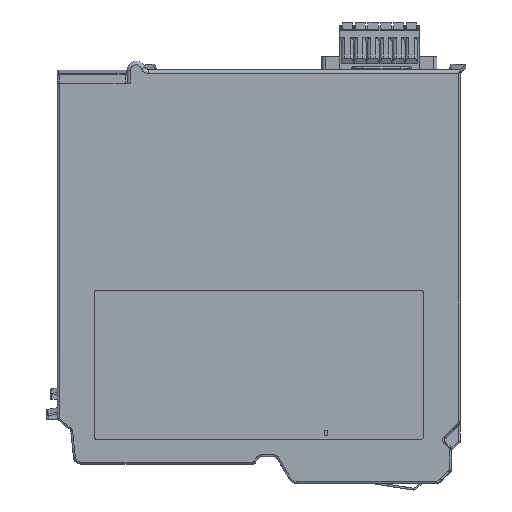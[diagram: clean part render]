
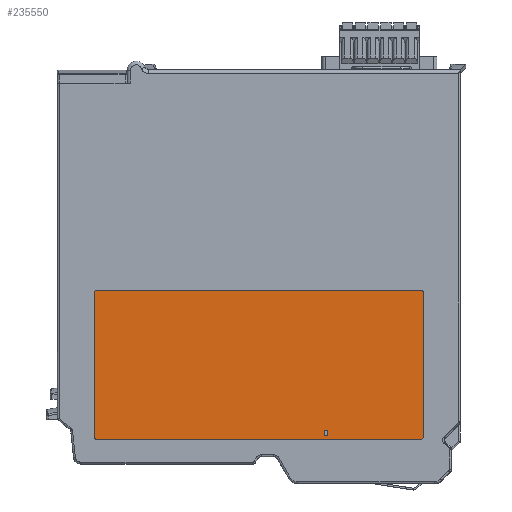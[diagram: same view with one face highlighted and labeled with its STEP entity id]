
A CAD part, left-side view. The second image highlights one B-rep face of the part: STEP entity #235550.
In plain terms, the highlighted planar face has unit normal (-1, 0, 0).
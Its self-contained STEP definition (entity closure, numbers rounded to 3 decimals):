
#5093 = LINE ( 'NONE', #5094, #82103 ) ;
#5094 = CARTESIAN_POINT ( 'NONE',  ( -30.376, -7.7, 8.2 ) ) ;
#5095 = DIRECTION ( 'NONE',  ( 0., 0., 1. ) ) ;
#12694 = CARTESIAN_POINT ( 'NONE',  ( -30.376, -71.372, 8.2 ) ) ;
#12987 = CARTESIAN_POINT ( 'NONE',  ( -30.376, -70.515, 9.7 ) ) ;
#13199 = CARTESIAN_POINT ( 'NONE',  ( -30.376, -70.528, 8.2 ) ) ;
#13452 = CARTESIAN_POINT ( 'NONE',  ( -30.376, -71.385, 9.7 ) ) ;
#16792 = CARTESIAN_POINT ( 'NONE',  ( -30.376, -96.7, 47. ) ) ;
#16793 = DIRECTION ( 'NONE',  ( 1., 0., 0. ) ) ;
#16794 = DIRECTION ( 'NONE',  ( 0., 0., 1. ) ) ;
#28289 = VERTEX_POINT ( 'NONE', #12694 ) ;
#28819 = VERTEX_POINT ( 'NONE', #12987 ) ;
#29157 = VERTEX_POINT ( 'NONE', #13199 ) ;
#29417 = VERTEX_POINT ( 'NONE', #13452 ) ;
#32981 = VECTOR ( 'NONE', #202067, 1000. ) ;
#39002 = CARTESIAN_POINT ( 'NONE',  ( -30.376, -97.7, 8.2 ) ) ;
#39409 = CARTESIAN_POINT ( 'NONE',  ( -30.376, -8.7, 7.2 ) ) ;
#39557 = CARTESIAN_POINT ( 'NONE',  ( -30.376, -7.7, 8.2 ) ) ;
#39622 = CARTESIAN_POINT ( 'NONE',  ( -30.376, -97.7, 47. ) ) ;
#39631 = CARTESIAN_POINT ( 'NONE',  ( -30.376, -8.7, 48. ) ) ;
#40920 = EDGE_CURVE ( 'NONE', #170084, #226664, #67444, .T. ) ;
#41181 = EDGE_CURVE ( 'NONE', #226664, #225688, #202063, .T. ) ;
#41646 = VECTOR ( 'NONE', #223453, 1000. ) ;
#41697 = EDGE_CURVE ( 'NONE', #226607, #170231, #5093, .T. ) ;
#43346 = EDGE_CURVE ( 'NONE', #226480, #226607, #79956, .T. ) ;
#43478 = EDGE_CURVE ( 'NONE', #226675, #170084, #198649, .T. ) ;
#43696 = EDGE_CURVE ( 'NONE', #170231, #226675, #152367, .T. ) ;
#43799 = EDGE_CURVE ( 'NONE', #170157, #226480, #94691, .T. ) ;
#45460 = FACE_BOUND ( 'NONE', #86105, .T. ) ;
#45466 = FACE_OUTER_BOUND ( 'NONE', #148051, .T. ) ;
#45472 = PLANE ( 'NONE',  #115780 ) ;
#45516 = CARTESIAN_POINT ( 'NONE',  ( -30.376, -8.7, 8.2 ) ) ;
#45519 = DIRECTION ( 'NONE',  ( -1., 0., 0. ) ) ;
#45521 = DIRECTION ( 'NONE',  ( 0., 0., 1. ) ) ;
#46845 = EDGE_CURVE ( 'NONE', #225688, #170157, #63108, .T. ) ;
#63108 = CIRCLE ( 'NONE', #63156, 1. ) ;
#63156 = AXIS2_PLACEMENT_3D ( 'NONE', #226929, #226931, #226932 ) ;
#65129 = CARTESIAN_POINT ( 'NONE',  ( -30.376, -96.7, 48. ) ) ;
#65163 = CARTESIAN_POINT ( 'NONE',  ( -30.376, -96.7, 7.2 ) ) ;
#65194 = CARTESIAN_POINT ( 'NONE',  ( -30.376, -7.7, 47. ) ) ;
#66491 = ORIENTED_EDGE ( 'NONE', *, *, #41697, .F. ) ;
#67444 = CIRCLE ( 'NONE', #67956, 1. ) ;
#67956 = AXIS2_PLACEMENT_3D ( 'NONE', #16792, #16793, #16794 ) ;
#72731 = CARTESIAN_POINT ( 'NONE',  ( -30.376, -70.6, 9.7 ) ) ;
#72761 = LINE ( 'NONE', #72731, #78718 ) ;
#72765 = DIRECTION ( 'NONE',  ( 0., 1., 0. ) ) ;
#78718 = VECTOR ( 'NONE', #72765, 1000. ) ;
#79422 = VECTOR ( 'NONE', #198651, 1000. ) ;
#79516 = AXIS2_PLACEMENT_3D ( 'NONE', #197420, #197422, #197424 ) ;
#79956 = CIRCLE ( 'NONE', #79516, 1. ) ;
#82103 = VECTOR ( 'NONE', #5095, 1000. ) ;
#86105 = EDGE_LOOP ( 'NONE', ( #186944, #183643, #183651, #183676 ) ) ;
#93209 = CARTESIAN_POINT ( 'NONE',  ( -30.376, -8.7, 47. ) ) ;
#93211 = DIRECTION ( 'NONE',  ( 1., 0., 0. ) ) ;
#93215 = DIRECTION ( 'NONE',  ( 0., 0., -1. ) ) ;
#94691 = LINE ( 'NONE', #94697, #217229 ) ;
#94697 = CARTESIAN_POINT ( 'NONE',  ( -30.376, -8.7, 7.2 ) ) ;
#94701 = DIRECTION ( 'NONE',  ( 0., 1., 0. ) ) ;
#115780 = AXIS2_PLACEMENT_3D ( 'NONE', #45516, #45519, #45521 ) ;
#117348 = LINE ( 'NONE', #117352, #123829 ) ;
#117352 = CARTESIAN_POINT ( 'NONE',  ( -30.376, -71.3, 0. ) ) ;
#117355 = DIRECTION ( 'NONE',  ( 0., 0.009, -1. ) ) ;
#117625 = LINE ( 'NONE', #117627, #123899 ) ;
#117627 = CARTESIAN_POINT ( 'NONE',  ( -30.376, -70.6, 8.2 ) ) ;
#117630 = DIRECTION ( 'NONE',  ( 0., -1., 0. ) ) ;
#123829 = VECTOR ( 'NONE', #117355, 1000. ) ;
#123899 = VECTOR ( 'NONE', #117630, 1000. ) ;
#148051 = EDGE_LOOP ( 'NONE', ( #183647, #186672, #186761, #186891, #186884, #186675, #187212, #66491 ) ) ;
#151320 = AXIS2_PLACEMENT_3D ( 'NONE', #93209, #93211, #93215 ) ;
#152367 = CIRCLE ( 'NONE', #151320, 1. ) ;
#156349 = EDGE_CURVE ( 'NONE', #29157, #28819, #223450, .T. ) ;
#159462 = EDGE_CURVE ( 'NONE', #29417, #28289, #117348, .T. ) ;
#159520 = EDGE_CURVE ( 'NONE', #29157, #28289, #117625, .T. ) ;
#161892 = EDGE_CURVE ( 'NONE', #29417, #28819, #72761, .T. ) ;
#170084 = VERTEX_POINT ( 'NONE', #65129 ) ;
#170157 = VERTEX_POINT ( 'NONE', #65163 ) ;
#170231 = VERTEX_POINT ( 'NONE', #65194 ) ;
#183643 = ORIENTED_EDGE ( 'NONE', *, *, #159520, .F. ) ;
#183647 = ORIENTED_EDGE ( 'NONE', *, *, #43346, .F. ) ;
#183651 = ORIENTED_EDGE ( 'NONE', *, *, #156349, .T. ) ;
#183676 = ORIENTED_EDGE ( 'NONE', *, *, #161892, .F. ) ;
#186672 = ORIENTED_EDGE ( 'NONE', *, *, #43799, .F. ) ;
#186675 = ORIENTED_EDGE ( 'NONE', *, *, #43478, .F. ) ;
#186761 = ORIENTED_EDGE ( 'NONE', *, *, #46845, .F. ) ;
#186884 = ORIENTED_EDGE ( 'NONE', *, *, #40920, .F. ) ;
#186891 = ORIENTED_EDGE ( 'NONE', *, *, #41181, .F. ) ;
#186944 = ORIENTED_EDGE ( 'NONE', *, *, #159462, .T. ) ;
#187212 = ORIENTED_EDGE ( 'NONE', *, *, #43696, .F. ) ;
#197420 = CARTESIAN_POINT ( 'NONE',  ( -30.376, -8.7, 8.2 ) ) ;
#197422 = DIRECTION ( 'NONE',  ( 1., 0., 0. ) ) ;
#197424 = DIRECTION ( 'NONE',  ( 0., 0., 1. ) ) ;
#198649 = LINE ( 'NONE', #198650, #79422 ) ;
#198650 = CARTESIAN_POINT ( 'NONE',  ( -30.376, -8.7, 48. ) ) ;
#198651 = DIRECTION ( 'NONE',  ( 0., -1., 0. ) ) ;
#202063 = LINE ( 'NONE', #202065, #32981 ) ;
#202065 = CARTESIAN_POINT ( 'NONE',  ( -30.376, -97.7, 8.2 ) ) ;
#202067 = DIRECTION ( 'NONE',  ( 0., 0., -1. ) ) ;
#217229 = VECTOR ( 'NONE', #94701, 1000. ) ;
#223450 = LINE ( 'NONE', #223451, #41646 ) ;
#223451 = CARTESIAN_POINT ( 'NONE',  ( -30.376, -70.6, 0. ) ) ;
#223453 = DIRECTION ( 'NONE',  ( 0., 0.009, 1. ) ) ;
#225688 = VERTEX_POINT ( 'NONE', #39002 ) ;
#226480 = VERTEX_POINT ( 'NONE', #39409 ) ;
#226607 = VERTEX_POINT ( 'NONE', #39557 ) ;
#226664 = VERTEX_POINT ( 'NONE', #39622 ) ;
#226675 = VERTEX_POINT ( 'NONE', #39631 ) ;
#226929 = CARTESIAN_POINT ( 'NONE',  ( -30.376, -96.7, 8.2 ) ) ;
#226931 = DIRECTION ( 'NONE',  ( 1., 0., 0. ) ) ;
#226932 = DIRECTION ( 'NONE',  ( 0., 0., 1. ) ) ;
#235550 = ADVANCED_FACE ( 'NONE', ( #45460, #45466 ), #45472, .T. ) ;
